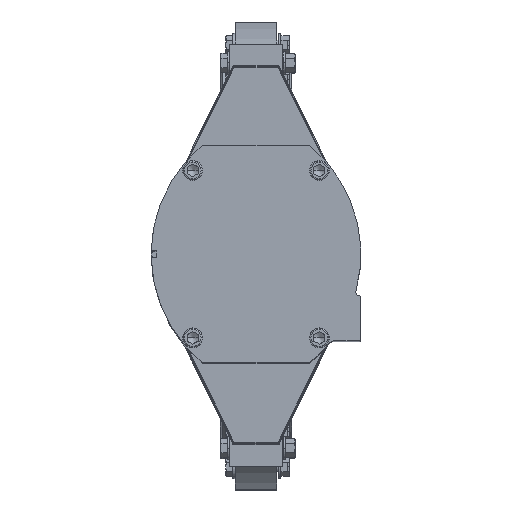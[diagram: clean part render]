
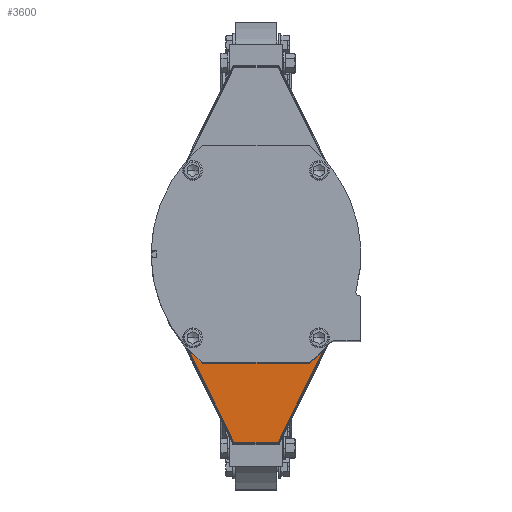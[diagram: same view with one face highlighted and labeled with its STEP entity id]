
A CAD part, top view. The second image highlights one B-rep face of the part: STEP entity #3600.
In plain terms, the highlighted planar face has unit normal (0, 0, 1).
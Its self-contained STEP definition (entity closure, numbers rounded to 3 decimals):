
#3600=ADVANCED_FACE('',(#11218),#11219,.F.);
#11218=FACE_OUTER_BOUND('',#19818,.T.);
#11219=PLANE('',#19819);
#19818=EDGE_LOOP('',(#46195,#46196,#46197,#46198,#46199,#46200));
#19819=AXIS2_PLACEMENT_3D('',#46201,#46202,#46203);
#46195=ORIENTED_EDGE('',*,*,#60257,.T.);
#46196=ORIENTED_EDGE('',*,*,#60263,.T.);
#46197=ORIENTED_EDGE('',*,*,#60281,.T.);
#46198=ORIENTED_EDGE('',*,*,#60279,.T.);
#46199=ORIENTED_EDGE('',*,*,#60268,.T.);
#46200=ORIENTED_EDGE('',*,*,#60277,.F.);
#46201=CARTESIAN_POINT('',(-51.994,-147.403,775.75));
#46202=DIRECTION('',(0.,0.,-1.));
#46203=DIRECTION('',(0.,-1.,0.));
#60257=EDGE_CURVE('',#74747,#74748,#74749,.T.);
#60263=EDGE_CURVE('',#74748,#74757,#74759,.T.);
#60268=EDGE_CURVE('',#74767,#74768,#74769,.T.);
#60277=EDGE_CURVE('',#74747,#74768,#74780,.T.);
#60279=EDGE_CURVE('',#74782,#74767,#74783,.T.);
#60281=EDGE_CURVE('',#74757,#74782,#74785,.T.);
#74747=VERTEX_POINT('',#110561);
#74748=VERTEX_POINT('',#110562);
#74749=LINE('',#110563,#110564);
#74757=VERTEX_POINT('',#110576);
#74759=LINE('',#110579,#110580);
#74767=VERTEX_POINT('',#110592);
#74768=VERTEX_POINT('',#110593);
#74769=LINE('',#110594,#110595);
#74780=LINE('',#110610,#110611);
#74782=VERTEX_POINT('',#110614);
#74783=LINE('',#110615,#110616);
#74785=LINE('',#110619,#110620);
#110561=CARTESIAN_POINT('',(23.989,-204.378,775.75));
#110562=CARTESIAN_POINT('',(80.,-91.378,775.75));
#110563=CARTESIAN_POINT('',(41.834,-168.377,775.75));
#110564=VECTOR('',#126624,10.);
#110576=CARTESIAN_POINT('',(80.,-90.428,775.75));
#110579=CARTESIAN_POINT('',(80.,-204.378,775.75));
#110580=VECTOR('',#126630,10.);
#110592=CARTESIAN_POINT('',(-80.,-91.378,775.75));
#110593=CARTESIAN_POINT('',(-23.989,-204.378,775.75));
#110594=CARTESIAN_POINT('',(-52.089,-147.688,775.75));
#110595=VECTOR('',#126635,10.);
#110610=CARTESIAN_POINT('',(23.989,-204.378,775.75));
#110611=VECTOR('',#126652,10.);
#110614=CARTESIAN_POINT('',(-80.,-90.428,775.75));
#110615=CARTESIAN_POINT('',(-80.,-204.378,775.75));
#110616=VECTOR('',#126654,10.);
#110619=CARTESIAN_POINT('',(-80.,-90.428,775.75));
#110620=VECTOR('',#126656,10.);
#126624=DIRECTION('',(0.444,0.896,0.));
#126630=DIRECTION('',(0.,1.,0.));
#126635=DIRECTION('',(0.444,-0.896,0.));
#126652=DIRECTION('',(-1.,0.,0.));
#126654=DIRECTION('',(0.,-1.,0.));
#126656=DIRECTION('',(-1.,0.,0.));
